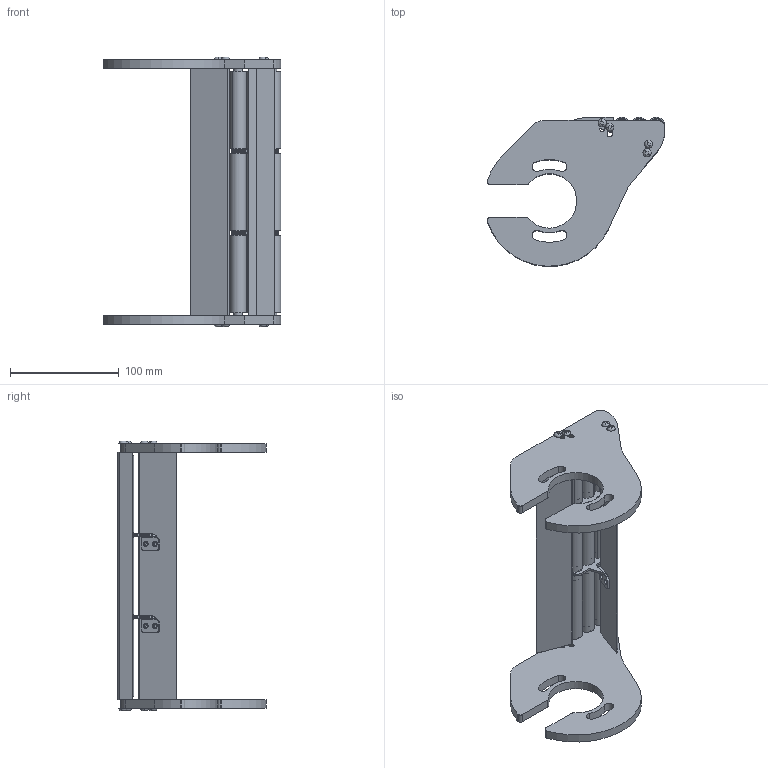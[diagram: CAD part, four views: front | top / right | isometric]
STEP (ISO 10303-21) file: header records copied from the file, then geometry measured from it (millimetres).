
FILE_DESCRIPTION (( 'STEP AP214' ), '1' );
FILE_NAME ('F2 750 TGRI 1R.STEP', '2024-02-26T14:50:18', ( '' ), ( '' ), 'SwSTEP 2.0', 'SolidWorks 2022', '' );
FILE_SCHEMA (( 'AUTOMOTIVE_DESIGN' ));
Length unit declared in the file: millimetre
Products named in the file (15): ROULEMENT TGRI CAB-F2-R-HEF; PT-F2 - F2-750 percé; SA TGRI; PSTI F2 1R; F2 750 TGRI 1R; PSTI F2 1R Symétrie; Galet + roulement F2 750; ENTRETOISE TGRI CAB-F2-R-HEF; ENTRETOISE SA TGRI; TBHC 4X16; AXE TGRI F2 750; SA TGRI + ENTRETOISE; Insert M4 TB; PT-F2 - F2-750; GR F2 750
Assembly tree (43 placements, depth 3):
  F2 750 TGRI 1R
    PSTI F2 1R Symétrie
    PSTI F2 1R
    PT-F2 - F2-750 percé
    PT-F2 - F2-750
    AXE TGRI F2 750  x3
    Galet + roulement F2 750  x9
      GR F2 750
      ROULEMENT TGRI CAB-F2-R-HEF
    ENTRETOISE TGRI CAB-F2-R-HEF  x6
    SA TGRI + ENTRETOISE  x2
      SA TGRI
      ENTRETOISE SA TGRI
    TBHC 4X16  x8
    Insert M4 TB  x4
Bounding box: 162.87 x 136.6 x 247.78 mm (x, y, z)
Volume: 409207.6 mm3; surface area: 183256.3 mm2
Topology: 60 solids, 60 shells, 2272 faces, 4982 edges, 2902 vertices
Faces by surface type: cone 1016, cylinder 620, plane 354, torus 246, sphere 26, bspline 10
Entity records: 17494 total; most frequent: CARTESIAN_POINT 3235, DIRECTION 3071, ORIENTED_EDGE 2548, EDGE_CURVE 1274, AXIS2_PLACEMENT_3D 1246, VERTEX_POINT 771, CIRCLE 657, EDGE_LOOP 599
